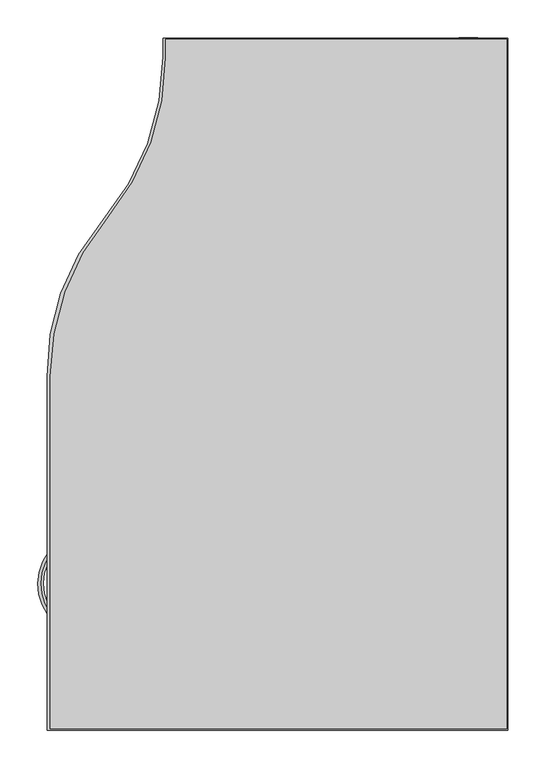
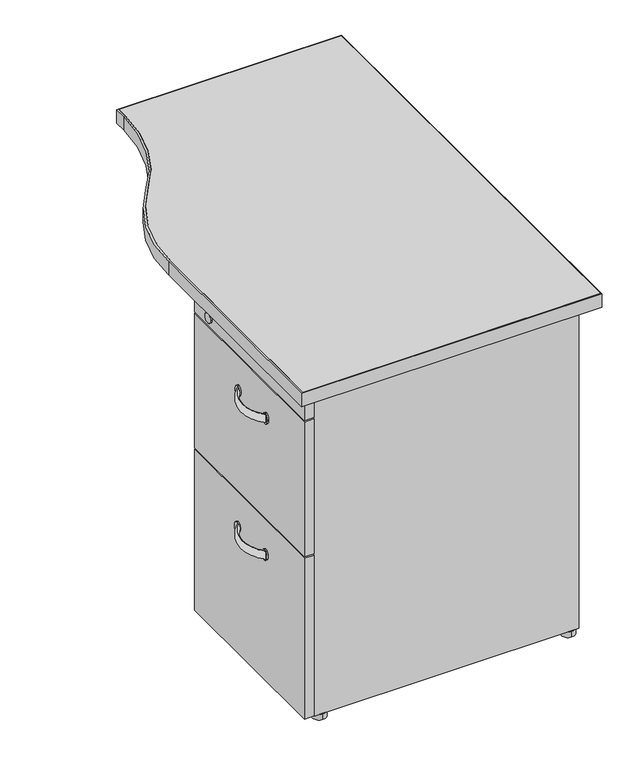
"""IFC4 building model written with IfcOpenShell, lengths in millimetres: furniture geometry, Steelcase - Kick Freestanding - Desk - Single Pedestal Transition Return - Full Modesty Panel : 18D x 36W - Right - File/File."""

import ifcopenshell
import ifcopenshell.guid

model = None  # the IFC model being written
_history = None  # IfcOwnerHistory: only IFC2X3 demands one
_inside = {}  # id of a spatial element -> (the spatial element, [elements in it])
_under = {}  # id of a project, library or spatial element -> (it, [spatial elements below it])
_declared = {}  # id of a project -> (the project, [libraries it declares])
_typed = {}  # id of a type object -> (the type object, [elements of that type])
_made_of = {}  # id of a material, layer set ... -> (it, [elements and type objects made of it])


def new_model(schema):
    """Start an empty IFC model of exactly this schema.

    Asked for "IFC4X3", IfcOpenShell would pick the latest addendum, in which some entities
    have other attributes; the version numbers below select the first issue.
    IFC2X3 requires an IfcOwnerHistory on every rooted entity: one is made here for all.
    """
    global model, _history
    if schema == "IFC4X3":
        model = ifcopenshell.file(schema_version=(4, 3, 0, 0))
    else:
        model = ifcopenshell.file(schema=schema)
    _inside.clear()
    _under.clear()
    _declared.clear()
    _typed.clear()
    _made_of.clear()
    _history = None
    if model.schema == "IFC2X3":
        org = make("IfcOrganization", Name="unknown")
        user = make(
            "IfcPersonAndOrganization",
            ThePerson=make("IfcPerson", FamilyName="unknown"),
            TheOrganization=org,
        )
        app = make(
            "IfcApplication",
            ApplicationDeveloper=org,
            Version="unknown",
            ApplicationFullName="unknown",
            ApplicationIdentifier="unknown",
        )
        _history = make(
            "IfcOwnerHistory",
            OwningUser=user,
            OwningApplication=app,
            ChangeAction="ADDED",
            CreationDate=0,
        )
    return model


def make(cls, **values):
    """One entity of the class cls with the attributes given. An attribute that is None is left unset."""
    return model.create_entity(
        cls, **{name: value for name, value in values.items() if value is not None}
    )


def rooted(cls, **values):
    """An entity with a GlobalId (a new one), such as an element, a storey or a relation."""
    return make(cls, GlobalId=ifcopenshell.guid.new(), OwnerHistory=_history, **values)


def si_unit(unit_type, name, prefix=None):
    """IfcSIUnit, for example si_unit("LENGTHUNIT", "METRE", prefix="MILLI")."""
    return make("IfcSIUnit", UnitType=unit_type, Prefix=prefix, Name=name)


def assignment(units):
    """IfcUnitAssignment: the units of a project."""
    return None if units is None else make("IfcUnitAssignment", Units=units)


def point(xyz):
    """IfcCartesianPoint."""
    return None if xyz is None else make("IfcCartesianPoint", Coordinates=xyz)


def direction(xyz):
    """IfcDirection."""
    return None if xyz is None else make("IfcDirection", DirectionRatios=xyz)


def frame(location, z_axis=None, x_axis=None):
    """IfcAxis2Placement3D, a coordinate frame: its origin and axes. An axis left out is left unset."""
    return make(
        "IfcAxis2Placement3D",
        Location=point(location),
        Axis=direction(z_axis),
        RefDirection=direction(x_axis),
    )


def frame_2d(location, x_axis=None):
    """IfcAxis2Placement2D, a coordinate frame in the plane: its origin and x axis."""
    return make(
        "IfcAxis2Placement2D", Location=point(location), RefDirection=direction(x_axis)
    )


def origin():
    """The frame at (0, 0, 0) with its axes left unset."""
    return frame((0.0, 0.0, 0.0))


def origin_with_axes():
    """The frame at (0, 0, 0) with the z axis (0, 0, 1) and the x axis (1, 0, 0) written out."""
    return frame((0.0, 0.0, 0.0), z_axis=(0.0, 0.0, 1.0), x_axis=(1.0, 0.0, 0.0))


def place(relative_to, where):
    """IfcLocalPlacement: puts the frame where relative to a parent placement (None: the world)."""
    return make(
        "IfcLocalPlacement", PlacementRelTo=relative_to, RelativePlacement=where
    )


def context(
    kind, dimensions, precision=None, world=None, true_north=None, identifier=None
):
    """IfcGeometricRepresentationContext, for example the 3D "Model" context."""
    return make(
        "IfcGeometricRepresentationContext",
        ContextIdentifier=identifier,
        ContextType=kind,
        CoordinateSpaceDimension=dimensions,
        Precision=precision,
        WorldCoordinateSystem=world,
        TrueNorth=true_north,
    )


def project(units=None, contexts=None):
    """IfcProject with its units and contexts."""
    return rooted(
        "IfcProject",
        Name="project",
        RepresentationContexts=contexts,
        UnitsInContext=assignment(units),
    )


def spatial(cls, under=None, at=None, **own):
    """A site, building, storey or space (cls), placed at a placement, below another one or the project."""
    s = rooted(cls, ObjectPlacement=at, **own)
    if under is not None:
        _under.setdefault(under.id(), (under, []))[1].append(s)
    return s


def polyline(points):
    """IfcPolyline through the points."""
    return make("IfcPolyline", Points=[point(p) for p in points])


def circle_curve(where, radius):
    """IfcCircle in the frame where."""
    return make("IfcCircle", Position=where, Radius=radius)


def ellipse_curve(where, semi_axis1, semi_axis2):
    """IfcEllipse in the frame where."""
    return make(
        "IfcEllipse", Position=where, SemiAxis1=semi_axis1, SemiAxis2=semi_axis2
    )


def trimmed(basis, trim1, trim2, sense, master):
    """IfcTrimmedCurve: the piece of a basis curve between two trims."""
    return make(
        "IfcTrimmedCurve",
        BasisCurve=basis,
        Trim1=trim1,
        Trim2=trim2,
        SenseAgreement=sense,
        MasterRepresentation=master,
    )


def segment(curve, same_sense, transition):
    """IfcCompositeCurveSegment."""
    return make(
        "IfcCompositeCurveSegment",
        Transition=transition,
        SameSense=same_sense,
        ParentCurve=curve,
    )


def composite_curve(segments, self_intersect=None):
    """IfcCompositeCurve: segments joined end to end."""
    return make("IfcCompositeCurve", Segments=segments, SelfIntersect=self_intersect)


def outline(outer, holes=None, kind="AREA"):
    """IfcArbitraryClosedProfileDef: a profile drawn as a closed curve; with holes, ...WithVoids."""
    if holes is None:
        return make("IfcArbitraryClosedProfileDef", ProfileType=kind, OuterCurve=outer)
    return make(
        "IfcArbitraryProfileDefWithVoids",
        ProfileType=kind,
        OuterCurve=outer,
        InnerCurves=holes,
    )


def extrude(swept, where, along, depth):
    """IfcExtrudedAreaSolid: the profile swept, set in the frame where, extruded along a direction by depth."""
    return make(
        "IfcExtrudedAreaSolid",
        SweptArea=swept,
        Position=where,
        ExtrudedDirection=direction(along),
        Depth=depth,
    )


def shape(context_of_items, identifier, shape_type, items):
    """IfcShapeRepresentation: the items that make up one representation, for example the "Body"."""
    return make(
        "IfcShapeRepresentation",
        ContextOfItems=context_of_items,
        RepresentationIdentifier=identifier,
        RepresentationType=shape_type,
        Items=items,
    )


def source(mapping_origin, context_of_items, identifier, shape_type, items):
    """IfcRepresentationMap: a shape defined once, which mapped items show again and again."""
    return make(
        "IfcRepresentationMap",
        MappingOrigin=mapping_origin,
        MappedRepresentation=shape(context_of_items, identifier, shape_type, items),
    )


def transform(
    local_origin,
    x_axis=None,
    y_axis=None,
    z_axis=None,
    scale=None,
    scale2=None,
    scale3=None,
    uniform=True,
):
    """IfcCartesianTransformationOperator3D, or its non-uniform kind. x_axis, y_axis, z_axis: its Axis1, 2, 3."""
    if uniform:
        return make(
            "IfcCartesianTransformationOperator3D",
            Axis1=direction(x_axis),
            Axis2=direction(y_axis),
            LocalOrigin=point(local_origin),
            Scale=scale,
            Axis3=direction(z_axis),
        )
    return make(
        "IfcCartesianTransformationOperator3DnonUniform",
        Axis1=direction(x_axis),
        Axis2=direction(y_axis),
        LocalOrigin=point(local_origin),
        Scale=scale,
        Axis3=direction(z_axis),
        Scale2=scale2,
        Scale3=scale3,
    )


def mapped(mapping_source, mapping_target):
    """IfcMappedItem: shows the shape of a source again, moved by a transform."""
    return make(
        "IfcMappedItem", MappingSource=mapping_source, MappingTarget=mapping_target
    )


def made_of(thing, what):
    """Note that an element or type object is made of a material, layer set ...; save() writes the relation."""
    if what is not None:
        _made_of.setdefault(what.id(), (what, []))[1].append(thing)
    return thing


def element(
    cls,
    number,
    at=None,
    inside=None,
    cuts=None,
    type_object=None,
    material=None,
    context=None,
    identifier="Body",
    shape_type=None,
    held_by="IfcProductDefinitionShape",
    body=None,
    shapes=None,
    **own,
):
    """One element of the class cls, such as IfcWall. Its Tag is "e" and its number.

    at: its placement. inside: the storey or other place that contains it. cuts: it is an
    opening in that element (IfcRelVoidsElement). A single representation is given by context,
    identifier, shape_type and body (its items); several are given by shapes. held_by: the class
    of the entity that holds the representations. save() writes the other relations.
    """
    e = rooted(cls, Tag="e%d" % number, ObjectPlacement=at, **own)
    if body is not None:
        shapes = [shape(context, identifier, shape_type, body)]
    if shapes is not None:
        e.Representation = make(held_by, Representations=shapes)
    if inside is not None:
        _inside.setdefault(inside.id(), (inside, []))[1].append(e)
    if cuts is not None:
        rooted(
            "IfcRelVoidsElement", RelatingBuildingElement=cuts, RelatedOpeningElement=e
        )
    if type_object is not None:
        _typed.setdefault(type_object.id(), (type_object, []))[1].append(e)
    return made_of(e, material)


def aggregate(whole, parts):
    """IfcRelAggregates: a whole, such as a stair, and the parts it consists of."""
    return rooted("IfcRelAggregates", RelatingObject=whole, RelatedObjects=parts)


def save(model, path):
    """Write the relations noted so far, then the file.

    IfcRelAggregates (storeys below a building ...), IfcRelContainedInSpatialStructure (elements
    in a storey), IfcRelDefinesByType, IfcRelAssociatesMaterial and IfcRelDeclares: one each for
    every whole, place, type object, material and project.
    """
    for whole, parts in _under.values():
        aggregate(whole, parts)
    for where, things in _inside.values():
        rooted(
            "IfcRelContainedInSpatialStructure",
            RelatedElements=things,
            RelatingStructure=where,
        )
    for kind, things in _typed.values():
        rooted("IfcRelDefinesByType", RelatedObjects=things, RelatingType=kind)
    for what, things in _made_of.values():
        rooted("IfcRelAssociatesMaterial", RelatedObjects=things, RelatingMaterial=what)
    for by, libraries in _declared.values():
        rooted("IfcRelDeclares", RelatingContext=by, RelatedDefinitions=libraries)
    model.write(path)


def plane_surface(at):
    """IfcPlane: the flat surface through the origin of the frame at, square to its z axis."""
    return make("IfcPlane", Position=at)


def cylinder_surface(at, radius):
    """IfcCylindricalSurface: all points at the distance radius from the z axis of the frame at."""
    return make("IfcCylindricalSurface", Position=at, Radius=radius)


def revolved_surface(curve, axis_point, axis_direction):
    """IfcSurfaceOfRevolution: the curve turned about the line through axis_point along axis_direction."""
    return make(
        "IfcSurfaceOfRevolution",
        SweptCurve=make("IfcArbitraryOpenProfileDef", ProfileType="CURVE", Curve=curve),
        AxisPosition=make("IfcAxis1Placement", Location=point(axis_point), Axis=direction(axis_direction)),
    )


def extruded_surface(curve, direction_of_extrusion, depth):
    """IfcSurfaceOfLinearExtrusion: the curve pushed along a direction by depth."""
    return make(
        "IfcSurfaceOfLinearExtrusion",
        SweptCurve=make("IfcArbitraryOpenProfileDef", ProfileType="CURVE", Curve=curve),
        ExtrudedDirection=direction(direction_of_extrusion),
        Depth=depth,
    )


def advanced_brep(points, edges, surfaces, faces):
    """IfcAdvancedBrep: a solid bounded by faces that lie on surfaces and meet in shared edges.

    An edge is (start, end): straight between two places in points (the first is 0);
    or (start, end, curve); or (start, end, curve, False) where it runs against its curve.
    A face is (place in surfaces, loops), or (place, loops, False) where it looks against
    its surface's normal. A loop lists edges by number (the first is 1), with a minus sign
    where the edge is run from its end to its start. The first loop is the outer one.
    """
    corners = [point(p) for p in points]
    vertices = [make("IfcVertexPoint", VertexGeometry=c) for c in corners]
    made = []
    for start, end, *more in edges:
        made.append(
            make(
                "IfcEdgeCurve",
                EdgeStart=vertices[start],
                EdgeEnd=vertices[end],
                EdgeGeometry=more[0] if more else make("IfcPolyline", Points=[corners[start], corners[end]]),
                SameSense=more[1] if len(more) > 1 else True,
            )
        )
    hull = []
    for where, loops, *sense in faces:
        bounds = []
        for j, loop in enumerate(loops):
            ring = [make("IfcOrientedEdge", EdgeElement=made[abs(k) - 1], Orientation=k > 0) for k in loop]
            bounds.append(
                make(
                    "IfcFaceOuterBound" if j == 0 else "IfcFaceBound",
                    Bound=make("IfcEdgeLoop", EdgeList=ring),
                    Orientation=True,
                )
            )
        hull.append(make("IfcAdvancedFace", Bounds=bounds, FaceSurface=surfaces[where], SameSense=sense[0] if sense else True))
    return make("IfcAdvancedBrep", Outer=make("IfcClosedShell", CfsFaces=hull))


def furniture_701be23a(model_context):
    return source(origin(), model_context, "Body", "SolidModel", [
        advanced_brep(
        [(1567.1281641, -1316.8132511, 586.4818798), (1567.1281641, -1316.8132511, 569.2783404), (1567.7941808, -1217.6632386, 586.4818798), (1567.7941808, -1217.6632386, 569.2783404)],
        [
            (0, 1, ellipse_curve(frame((1567.1281641, -1316.8132511, 577.8801101), z_axis=(0.7327226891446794, -0.6805273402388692, 0.0), x_axis=(0.0, 0.0, -1.0)), 8.6017697, 3.6448177)),
            (1, 0, ellipse_curve(frame((1567.1281641, -1316.8132511, 577.8801101), z_axis=(0.7327226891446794, -0.6805273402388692, 0.0), x_axis=(0.0, 0.0, -1.0)), 8.6017697, 3.6448177)),
            (2, 3, ellipse_curve(frame((1567.7941808, -1217.6632386, 577.8801101), z_axis=(0.7417987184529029, 0.670622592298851, 0.0), x_axis=(0.0, 0.0, -1.0)), 8.6017697, 3.6448177)),
            (3, 2, ellipse_curve(frame((1567.7941808, -1217.6632386, 577.8801101), z_axis=(0.7417987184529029, 0.670622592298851, 0.0), x_axis=(0.0, 0.0, -1.0)), 8.6017697, 3.6448177)),
            (3, 1, circle_curve(frame((1612.8882961, -1267.5433908, 569.2783404), z_axis=(0.0, 0.0, 1.0), x_axis=(-0.6805273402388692, -0.7327226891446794, 0.0)), 67.2421655)),
            (0, 2, circle_curve(frame((1612.8882961, -1267.5433908, 586.4818798), z_axis=(0.0, 0.0, -1.0), x_axis=(-0.6805273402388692, -0.7327226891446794, 0.0)), 67.2421655)),
        ],
        [
            plane_surface(frame((1566.3645897, -1317.6353903, 0.0), z_axis=(0.7327226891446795, -0.6805273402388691, 0.0), x_axis=(0.0, 0.0, 1.0))),
            plane_surface(frame((1567.0417199, -1216.8309157, 0.0), z_axis=(0.7417987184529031, 0.6706225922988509, 0.0), x_axis=(0.0, 0.0, 1.0))),
            revolved_surface(trimmed(ellipse_curve(frame((1567.1281641, -1316.8132511, 577.8801101), z_axis=(0.7327226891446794, -0.6805273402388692, 0.0), x_axis=(0.0, 0.0, -1.0)), 8.6017697, 3.6448177), [point((1567.1281641, -1316.8132511, 586.4818798))], [point((1567.1281641, -1316.8132511, 569.2783404))], True, "CARTESIAN"), (1612.8882961, -1267.5433908, 0.0), (0.0, 0.0, -1.0)),
            revolved_surface(trimmed(ellipse_curve(frame((1567.1281641, -1316.8132511, 577.8801101), z_axis=(0.7327226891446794, -0.6805273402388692, 0.0), x_axis=(0.0, 0.0, -1.0)), 8.6017697, 3.6448177), [point((1567.1281641, -1316.8132511, 569.2783404))], [point((1567.1281641, -1316.8132511, 586.4818798))], True, "CARTESIAN"), (1612.8882961, -1267.5433908, 0.0), (0.0, 0.0, -1.0)),
        ],
        [
            (0, [[1, 2]]),
            (1, [[3, 4]]),
            (2, [[5, -1, 6, -4]]),
            (3, [[-6, -2, -5, -3]]),
        ],
    ),
        advanced_brep(
        [(1567.1281641, -1316.8132511, 293.5881298), (1567.1281641, -1316.8132511, 276.3845904), (1567.7941808, -1217.6632386, 293.5881298), (1567.7941808, -1217.6632386, 276.3845904)],
        [
            (0, 1, ellipse_curve(frame((1567.1281641, -1316.8132511, 284.9863601), z_axis=(0.7327226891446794, -0.6805273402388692, 0.0), x_axis=(0.0, 0.0, -1.0)), 8.6017697, 3.6448177)),
            (1, 0, ellipse_curve(frame((1567.1281641, -1316.8132511, 284.9863601), z_axis=(0.7327226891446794, -0.6805273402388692, 0.0), x_axis=(0.0, 0.0, -1.0)), 8.6017697, 3.6448177)),
            (2, 3, ellipse_curve(frame((1567.7941808, -1217.6632386, 284.9863601), z_axis=(0.7417987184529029, 0.670622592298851, 0.0), x_axis=(0.0, 0.0, -1.0)), 8.6017697, 3.6448177)),
            (3, 2, ellipse_curve(frame((1567.7941808, -1217.6632386, 284.9863601), z_axis=(0.7417987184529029, 0.670622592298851, 0.0), x_axis=(0.0, 0.0, -1.0)), 8.6017697, 3.6448177)),
            (3, 1, circle_curve(frame((1612.8882961, -1267.5433908, 276.3845904), z_axis=(0.0, 0.0, 1.0), x_axis=(-0.6805273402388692, -0.7327226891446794, 0.0)), 67.2421655)),
            (0, 2, circle_curve(frame((1612.8882961, -1267.5433908, 293.5881298), z_axis=(0.0, 0.0, -1.0), x_axis=(-0.6805273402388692, -0.7327226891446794, 0.0)), 67.2421655)),
        ],
        [
            plane_surface(frame((1566.3645897, -1317.6353903, 0.0), z_axis=(0.7327226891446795, -0.6805273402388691, 0.0), x_axis=(0.0, 0.0, 1.0))),
            plane_surface(frame((1567.0417199, -1216.8309157, 0.0), z_axis=(0.7417987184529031, 0.6706225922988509, 0.0), x_axis=(0.0, 0.0, 1.0))),
            revolved_surface(trimmed(ellipse_curve(frame((1567.1281641, -1316.8132511, 284.9863601), z_axis=(0.7327226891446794, -0.6805273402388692, 0.0), x_axis=(0.0, 0.0, -1.0)), 8.6017697, 3.6448177), [point((1567.1281641, -1316.8132511, 293.5881298))], [point((1567.1281641, -1316.8132511, 276.3845904))], True, "CARTESIAN"), (1612.8882961, -1267.5433908, 0.0), (0.0, 0.0, -1.0)),
            revolved_surface(trimmed(ellipse_curve(frame((1567.1281641, -1316.8132511, 284.9863601), z_axis=(0.7327226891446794, -0.6805273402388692, 0.0), x_axis=(0.0, 0.0, -1.0)), 8.6017697, 3.6448177), [point((1567.1281641, -1316.8132511, 276.3845904))], [point((1567.1281641, -1316.8132511, 293.5881298))], True, "CARTESIAN"), (1612.8882961, -1267.5433908, 0.0), (0.0, 0.0, -1.0)),
        ],
        [
            (0, [[1, 2]]),
            (1, [[3, 4]]),
            (2, [[5, -1, 6, -4]]),
            (3, [[-6, -2, -5, -3]]),
        ],
    ),
        advanced_brep(
        [(1564.8733086, -1124.2380273, 671.1566635), (1564.8733086, -1103.9180273, 671.1566635), (1567.9720601, -1124.2380273, 671.1566635), (1567.9720601, -1103.9180273, 671.1566635)],
        [
            (0, 1, circle_curve(frame((1564.8733086, -1114.0780273, 671.1566635), z_axis=(-1.0, 0.0, 0.0), x_axis=(0.0, 1.0, 0.0)), 10.16)),
            (1, 0, circle_curve(frame((1564.8733086, -1114.0780273, 671.1566635), z_axis=(-1.0, 0.0, 0.0), x_axis=(0.0, 1.0, 0.0)), 10.16)),
            (2, 3, circle_curve(frame((1567.9720601, -1114.0780273, 671.1566635), z_axis=(1.0, 0.0, 0.0), x_axis=(0.0, 1.0, 0.0)), 10.16)),
            (3, 2, circle_curve(frame((1567.9720601, -1114.0780273, 671.1566635), z_axis=(1.0, 0.0, 0.0), x_axis=(0.0, 1.0, 0.0)), 10.16)),
            (0, 2),
            (3, 1),
        ],
        [
            plane_surface(frame((1564.8733086, -1103.9180273, 671.1566635), z_axis=(-1.0, 0.0, 0.0), x_axis=(0.0, 0.0, -1.0))),
            plane_surface(frame((1567.9720601, -1103.9180273, 671.1566635), z_axis=(1.0, 0.0, 0.0), x_axis=(0.0, 0.0, 1.0))),
            cylinder_surface(frame((1567.9720601, -1114.0780273, 671.1566635), z_axis=(-1.0, 0.0, 0.0), x_axis=(0.0, 1.0, 0.0)), 10.16),
        ],
        [
            (0, [[1, 2]]),
            (1, [[3, 4]]),
            (2, [[-1, 5, -4, 6]]),
            (2, [[-2, -6, -3, -5]]),
        ],
    ),
        advanced_brep(
        [(1564.8733086, -1315.4140492, 589.4466513), (1564.8733086, -1315.4140492, 566.5866513), (1567.9720601, -1315.4140492, 589.4466513), (1567.9720601, -1315.4140492, 566.5866513)],
        [
            (0, 1, ellipse_curve(frame((1564.8733086, -1315.4140492, 578.0166513), z_axis=(-1.0, 0.0, 0.0), x_axis=(0.0, 0.0, -1.0)), 11.43, 8.0054005)),
            (1, 0, ellipse_curve(frame((1564.8733086, -1315.4140492, 578.0166513), z_axis=(-1.0, 0.0, 0.0), x_axis=(0.0, 0.0, -1.0)), 11.43, 8.0054005)),
            (2, 3, ellipse_curve(frame((1567.9720601, -1315.4140492, 578.0166513), z_axis=(1.0, 0.0, 0.0), x_axis=(0.0, 0.0, -1.0)), 11.43, 8.0054005)),
            (3, 2, ellipse_curve(frame((1567.9720601, -1315.4140492, 578.0166513), z_axis=(1.0, 0.0, 0.0), x_axis=(0.0, 0.0, -1.0)), 11.43, 8.0054005)),
            (0, 2),
            (3, 1),
        ],
        [
            plane_surface(frame((1564.8733086, -1103.9180273, 671.1566635), z_axis=(-1.0, 0.0, 0.0), x_axis=(0.0, 0.0, -1.0))),
            plane_surface(frame((1567.9720601, -1103.9180273, 671.1566635), z_axis=(1.0, 0.0, 0.0), x_axis=(0.0, 0.0, 1.0))),
            extruded_surface(trimmed(ellipse_curve(frame((1571.9598601, -1315.4140492, 578.0166513), z_axis=(-1.0, 0.0, 0.0), x_axis=(0.0, 0.0, -1.0)), 11.43, 8.0054005), [point((1571.9598601, -1315.4140492, 589.4466513))], [point((1571.9598601, -1315.4140492, 566.5866513))], True, "CARTESIAN"), (-3.098751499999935, 0.0, 0.0), 3.098751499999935),
            extruded_surface(trimmed(ellipse_curve(frame((1571.9598601, -1315.4140492, 578.0166513), z_axis=(-1.0, 0.0, 0.0), x_axis=(0.0, 0.0, -1.0)), 11.43, 8.0054005), [point((1571.9598601, -1315.4140492, 566.5866513))], [point((1571.9598601, -1315.4140492, 589.4466513))], True, "CARTESIAN"), (-3.098751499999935, 0.0, 0.0), 3.098751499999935),
        ],
        [
            (0, [[1, 2]]),
            (1, [[3, 4]]),
            (2, [[-1, 5, -4, 6]]),
            (3, [[-2, -6, -3, -5]]),
        ],
    ),
        advanced_brep(
        [(1564.8733086, -1218.0852323, 589.4466513), (1564.8733086, -1218.0852323, 566.5866513), (1567.9720601, -1218.0852323, 589.4466513), (1567.9720601, -1218.0852323, 566.5866513)],
        [
            (0, 1, ellipse_curve(frame((1564.8733086, -1218.0852323, 578.0166513), z_axis=(-1.0, 0.0, 0.0), x_axis=(0.0, 0.0, -1.0)), 11.43, 8.0054005)),
            (1, 0, ellipse_curve(frame((1564.8733086, -1218.0852323, 578.0166513), z_axis=(-1.0, 0.0, 0.0), x_axis=(0.0, 0.0, -1.0)), 11.43, 8.0054005)),
            (2, 3, ellipse_curve(frame((1567.9720601, -1218.0852323, 578.0166513), z_axis=(1.0, 0.0, 0.0), x_axis=(0.0, 0.0, -1.0)), 11.43, 8.0054005)),
            (3, 2, ellipse_curve(frame((1567.9720601, -1218.0852323, 578.0166513), z_axis=(1.0, 0.0, 0.0), x_axis=(0.0, 0.0, -1.0)), 11.43, 8.0054005)),
            (0, 2),
            (3, 1),
        ],
        [
            plane_surface(frame((1564.8733086, -1103.9180273, 671.1566635), z_axis=(-1.0, 0.0, 0.0), x_axis=(0.0, 0.0, -1.0))),
            plane_surface(frame((1567.9720601, -1103.9180273, 671.1566635), z_axis=(1.0, 0.0, 0.0), x_axis=(0.0, 0.0, 1.0))),
            extruded_surface(trimmed(ellipse_curve(frame((1571.9598601, -1218.0852323, 578.0166513), z_axis=(-1.0, 0.0, 0.0), x_axis=(0.0, 0.0, -1.0)), 11.43, 8.0054005), [point((1571.9598601, -1218.0852323, 589.4466513))], [point((1571.9598601, -1218.0852323, 566.5866513))], True, "CARTESIAN"), (-3.098751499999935, 0.0, 0.0), 3.098751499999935),
            extruded_surface(trimmed(ellipse_curve(frame((1571.9598601, -1218.0852323, 578.0166513), z_axis=(-1.0, 0.0, 0.0), x_axis=(0.0, 0.0, -1.0)), 11.43, 8.0054005), [point((1571.9598601, -1218.0852323, 566.5866513))], [point((1571.9598601, -1218.0852323, 589.4466513))], True, "CARTESIAN"), (-3.098751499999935, 0.0, 0.0), 3.098751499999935),
        ],
        [
            (0, [[1, 2]]),
            (1, [[3, 4]]),
            (2, [[-1, 5, -4, 6]]),
            (3, [[-2, -6, -3, -5]]),
        ],
    ),
        advanced_brep(
        [(1564.8733086, -1313.3551434, 296.0079573), (1564.8733086, -1313.3551434, 273.1479573), (1567.9720601, -1313.3551434, 296.0079573), (1567.9720601, -1313.3551434, 273.1479573)],
        [
            (0, 1, ellipse_curve(frame((1564.8733086, -1313.3551434, 284.5779573), z_axis=(-1.0, 0.0, 0.0), x_axis=(0.0, 0.0, -1.0)), 11.43, 8.0054005)),
            (1, 0, ellipse_curve(frame((1564.8733086, -1313.3551434, 284.5779573), z_axis=(-1.0, 0.0, 0.0), x_axis=(0.0, 0.0, -1.0)), 11.43, 8.0054005)),
            (2, 3, ellipse_curve(frame((1567.9720601, -1313.3551434, 284.5779573), z_axis=(1.0, 0.0, 0.0), x_axis=(0.0, 0.0, -1.0)), 11.43, 8.0054005)),
            (3, 2, ellipse_curve(frame((1567.9720601, -1313.3551434, 284.5779573), z_axis=(1.0, 0.0, 0.0), x_axis=(0.0, 0.0, -1.0)), 11.43, 8.0054005)),
            (0, 2),
            (3, 1),
        ],
        [
            plane_surface(frame((1564.8733086, -1103.9180273, 671.1566635), z_axis=(-1.0, 0.0, 0.0), x_axis=(0.0, 0.0, -1.0))),
            plane_surface(frame((1567.9720601, -1103.9180273, 671.1566635), z_axis=(1.0, 0.0, 0.0), x_axis=(0.0, 0.0, 1.0))),
            extruded_surface(trimmed(ellipse_curve(frame((1571.9598601, -1313.3551434, 284.5779573), z_axis=(-1.0, 0.0, 0.0), x_axis=(0.0, 0.0, -1.0)), 11.43, 8.0054005), [point((1571.9598601, -1313.3551434, 296.0079573))], [point((1571.9598601, -1313.3551434, 273.1479573))], True, "CARTESIAN"), (-3.098751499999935, 0.0, 0.0), 3.098751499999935),
            extruded_surface(trimmed(ellipse_curve(frame((1571.9598601, -1313.3551434, 284.5779573), z_axis=(-1.0, 0.0, 0.0), x_axis=(0.0, 0.0, -1.0)), 11.43, 8.0054005), [point((1571.9598601, -1313.3551434, 273.1479573))], [point((1571.9598601, -1313.3551434, 296.0079573))], True, "CARTESIAN"), (-3.098751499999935, 0.0, 0.0), 3.098751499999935),
        ],
        [
            (0, [[1, 2]]),
            (1, [[3, 4]]),
            (2, [[-1, 5, -4, 6]]),
            (3, [[-2, -6, -3, -5]]),
        ],
    ),
        advanced_brep(
        [(1564.8733086, -1216.0263266, 296.0079573), (1564.8733086, -1216.0263266, 273.1479573), (1567.9720601, -1216.0263266, 296.0079573), (1567.9720601, -1216.0263266, 273.1479573)],
        [
            (0, 1, ellipse_curve(frame((1564.8733086, -1216.0263266, 284.5779573), z_axis=(-1.0, 0.0, 0.0), x_axis=(0.0, 0.0, -1.0)), 11.43, 8.0054005)),
            (1, 0, ellipse_curve(frame((1564.8733086, -1216.0263266, 284.5779573), z_axis=(-1.0, 0.0, 0.0), x_axis=(0.0, 0.0, -1.0)), 11.43, 8.0054005)),
            (2, 3, ellipse_curve(frame((1567.9720601, -1216.0263266, 284.5779573), z_axis=(1.0, 0.0, 0.0), x_axis=(0.0, 0.0, -1.0)), 11.43, 8.0054005)),
            (3, 2, ellipse_curve(frame((1567.9720601, -1216.0263266, 284.5779573), z_axis=(1.0, 0.0, 0.0), x_axis=(0.0, 0.0, -1.0)), 11.43, 8.0054005)),
            (0, 2),
            (3, 1),
        ],
        [
            plane_surface(frame((1564.8733086, -1103.9180273, 671.1566635), z_axis=(-1.0, 0.0, 0.0), x_axis=(0.0, 0.0, -1.0))),
            plane_surface(frame((1567.9720601, -1103.9180273, 671.1566635), z_axis=(1.0, 0.0, 0.0), x_axis=(0.0, 0.0, 1.0))),
            extruded_surface(trimmed(ellipse_curve(frame((1571.9598601, -1216.0263266, 284.5779573), z_axis=(-1.0, 0.0, 0.0), x_axis=(0.0, 0.0, -1.0)), 11.43, 8.0054005), [point((1571.9598601, -1216.0263266, 296.0079573))], [point((1571.9598601, -1216.0263266, 273.1479573))], True, "CARTESIAN"), (-3.098751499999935, 0.0, 0.0), 3.098751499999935),
            extruded_surface(trimmed(ellipse_curve(frame((1571.9598601, -1216.0263266, 284.5779573), z_axis=(-1.0, 0.0, 0.0), x_axis=(0.0, 0.0, -1.0)), 11.43, 8.0054005), [point((1571.9598601, -1216.0263266, 273.1479573))], [point((1571.9598601, -1216.0263266, 296.0079573))], True, "CARTESIAN"), (-3.098751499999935, 0.0, 0.0), 3.098751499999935),
        ],
        [
            (0, [[1, 2]]),
            (1, [[3, 4]]),
            (2, [[-1, 5, -4, 6]]),
            (3, [[-2, -6, -3, -5]]),
        ],
    ),
        extrude(outline(polyline([(1567.9720601, -1447.9145982), (1567.9720601, -1062.9776054), (1587.9111086, -1062.9776054), (1587.9111086, -1447.9145982), (1567.9720601, -1447.9145982)])), frame((0.0, 0.0, 360.6545895), z_axis=(0.0, 0.0, 1.0), x_axis=(1.0, 0.0, 0.0)), (0.0, 0.0, 1.0), 288.9250242),
        extrude(outline(polyline([(1567.9720601, -1447.9145982), (1567.9720601, -1062.9776054), (1587.9111086, -1062.9776054), (1587.9111086, -1447.9145982), (1567.9720601, -1447.9145982)])), frame((0.0, 0.0, 12.7), z_axis=(0.0, 0.0, 1.0), x_axis=(1.0, 0.0, 0.0)), (0.0, 0.0, 1.0), 344.7796016),
        extrude(outline(polyline([(1567.9720601, -1447.9145982), (1567.9720601, -1062.9776054), (1587.9111086, -1062.9776054), (1587.9111086, -1447.9145982), (1567.9720601, -1447.9145982)])), frame((0.0, 0.0, 652.7545653), z_axis=(0.0, 0.0, 1.0), x_axis=(1.0, 0.0, 0.0)), (0.0, 0.0, 1.0), 40.6400339),
        extrude(outline(composite_curve([segment(trimmed(circle_curve(frame_2d((2110.0114425, -1435.3382652)), 13.97), [point((2110.0114425, -1449.3082652))], [point((2110.0114425, -1421.3682652))], False, "CARTESIAN"), True, "CONTINUOUS"), segment(trimmed(circle_curve(frame_2d((2110.0114425, -1435.3382652)), 13.97), [point((2110.0114425, -1421.3682652))], [point((2110.0114425, -1449.3082652))], False, "CARTESIAN"), True, "CONTINUOUS")], self_intersect=False)), origin_with_axes(), (0.0, 0.0, 1.0), 12.446),
        extrude(outline(composite_curve([segment(trimmed(circle_curve(frame_2d((1605.0594425, -1435.3382652)), 13.97), [point((1605.0594425, -1449.3082652))], [point((1605.0594425, -1421.3682652))], False, "CARTESIAN"), True, "CONTINUOUS"), segment(trimmed(circle_curve(frame_2d((1605.0594425, -1435.3382652)), 13.97), [point((1605.0594425, -1421.3682652))], [point((1605.0594425, -1449.3082652))], False, "CARTESIAN"), True, "CONTINUOUS")], self_intersect=False)), origin_with_axes(), (0.0, 0.0, 1.0), 12.446),
        extrude(outline(composite_curve([segment(trimmed(circle_curve(frame_2d((2110.0114425, -1075.6776054)), 13.97), [point((2110.0114425, -1089.6476054))], [point((2110.0114425, -1061.7076054))], False, "CARTESIAN"), True, "CONTINUOUS"), segment(trimmed(circle_curve(frame_2d((2110.0114425, -1075.6776054)), 13.97), [point((2110.0114425, -1061.7076054))], [point((2110.0114425, -1089.6476054))], False, "CARTESIAN"), True, "CONTINUOUS")], self_intersect=False)), origin_with_axes(), (0.0, 0.0, 1.0), 12.446),
        extrude(outline(composite_curve([segment(trimmed(circle_curve(frame_2d((1604.2584597, -1075.6776054)), 12.7), [point((1604.2584597, -1088.3776054))], [point((1604.2584597, -1062.9776054))], False, "CARTESIAN"), True, "CONTINUOUS"), segment(trimmed(circle_curve(frame_2d((1604.2584597, -1075.6776054)), 12.7), [point((1604.2584597, -1062.9776054))], [point((1604.2584597, -1088.3776054))], False, "CARTESIAN"), True, "CONTINUOUS")], self_intersect=False)), origin_with_axes(), (0.0, 0.0, 1.0), 12.446),
        extrude(outline(polyline([(2124.4860601, -1062.9776054), (2124.4860601, -1447.9145982), (1587.9111086, -1447.9145982), (1587.9111086, -1062.9776054), (2124.4860601, -1062.9776054)]), holes=[polyline([(2099.0860609, -1082.8149846), (1608.4850708, -1082.8149846), (1608.4850708, -1428.0771996), (2099.0860609, -1428.0771996), (2099.0860609, -1082.8149846)])]), frame((0.0, 0.0, 12.446), z_axis=(0.0, 0.0, 1.0), x_axis=(1.0, 0.0, 0.0)), (0.0, 0.0, 1.0), 682.498),
        extrude(outline(composite_curve([segment(polyline([(1707.9294594, -546.8145152), (2163.8594425, -546.8145152), (2163.8594425, -1461.2145152), (1554.2594425, -1461.2145152), (1554.2594425, -994.1085152)]), True, "CONTINUOUS"), segment(trimmed(circle_curve(frame_2d((1864.0239413, -987.7058619)), 309.8306613), [point((1554.2594425, -994.1085152))], [point((1628.457587, -786.4509703))], False, "CARTESIAN"), True, "CONTINUOUS"), segment(trimmed(circle_curve(frame_2d((1376.3728371, -571.0836731)), 331.5566223), [point((1628.457587, -786.4509703))], [point((1707.9294594, -571.0836731))], True, "CARTESIAN"), True, "CONTINUOUS"), segment(polyline([(1707.9294594, -571.0836731), (1707.9294594, -546.8145152)]), True, "CONTINUOUS")], self_intersect=False), holes=[composite_curve([segment(polyline([(1710.9012257, -547.8051152), (1710.9012257, -572.1320079)]), True, "CONTINUOUS"), segment(trimmed(circle_curve(frame_2d((1386.0725345, -574.5942763)), 324.8380233), [point((1710.9012257, -572.1320079))], [point((1635.1600947, -783.1011797))], False, "CARTESIAN"), True, "CONTINUOUS"), segment(trimmed(circle_curve(frame_2d((1887.2347336, -994.1085152)), 328.7335079), [point((1635.1600947, -783.1011797))], [point((1558.5012257, -994.1085152))], True, "CARTESIAN"), True, "CONTINUOUS"), segment(polyline([(1558.5012257, -994.1085152), (1558.5012257, -1459.4619332), (2162.8688425, -1459.4619332), (2162.8688425, -547.8051152), (1710.9012257, -547.8051152)]), True, "CONTINUOUS")], self_intersect=False)]), frame((0.0, 0.0, 694.944), z_axis=(0.0, 0.0, 1.0), x_axis=(1.0, 0.0, 0.0)), (0.0, 0.0, 1.0), 28.956),
        extrude(outline(composite_curve([segment(polyline([(2162.8688425, -547.8051152), (2162.8688425, -1459.4619332), (1558.5012257, -1459.4619332), (1558.5012257, -994.1085152)]), True, "CONTINUOUS"), segment(trimmed(circle_curve(frame_2d((1887.2347336, -994.1085152)), 328.7335079), [point((1558.5012257, -994.1085152))], [point((1635.1600947, -783.1011797))], False, "CARTESIAN"), True, "CONTINUOUS"), segment(trimmed(circle_curve(frame_2d((1386.0725345, -574.5942763)), 324.8380233), [point((1635.1600947, -783.1011797))], [point((1710.9012257, -572.1320079))], True, "CARTESIAN"), True, "CONTINUOUS"), segment(polyline([(1710.9012257, -572.1320079), (1710.9012257, -547.8051152), (2162.8688425, -547.8051152)]), True, "CONTINUOUS")], self_intersect=False)), frame((0.0, 0.0, 694.944), z_axis=(0.0, 0.0, 1.0), x_axis=(1.0, 0.0, 0.0)), (0.0, 0.0, 1.0), 28.956),
        extrude(outline(polyline([(2099.0860609, -546.0525152), (2124.4860601, -546.0525152), (2124.4860601, -1062.9776054), (2099.0860609, -1062.9776054), (2099.0860609, -546.0525152)])), frame((0.0, 0.0, 31.242), z_axis=(0.0, 0.0, 1.0), x_axis=(1.0, 0.0, 0.0)), (0.0, 0.0, 1.0), 663.702),
    ])


if __name__ == "__main__":
    model = new_model("IFC4")
    model_context = context("Model", 3, world=origin())
    ifc_project = project(units=[si_unit("LENGTHUNIT", "METRE", prefix="MILLI")], contexts=[model_context])
    site = spatial("IfcSite", under=ifc_project)
    building = spatial("IfcBuilding", under=site)
    placement = place(None, origin())
    furniture_shape = furniture_701be23a(model_context)
    element("IfcFurniture", 1, ObjectType="Steelcase - Kick Freestanding - Desk - Single Pedestal Transition Return - Full Modesty Panel : 18D x 36W - Right - File/File", at=placement, inside=building, context=model_context, shape_type="MappedRepresentation", body=[
        mapped(furniture_shape, transform((0.0, 0.0, 0.0), x_axis=(1.0, 0.0, 0.0), y_axis=(0.0, 1.0, 0.0), z_axis=(0.0, 0.0, 1.0))),
    ])
    save(model, "model.ifc")
